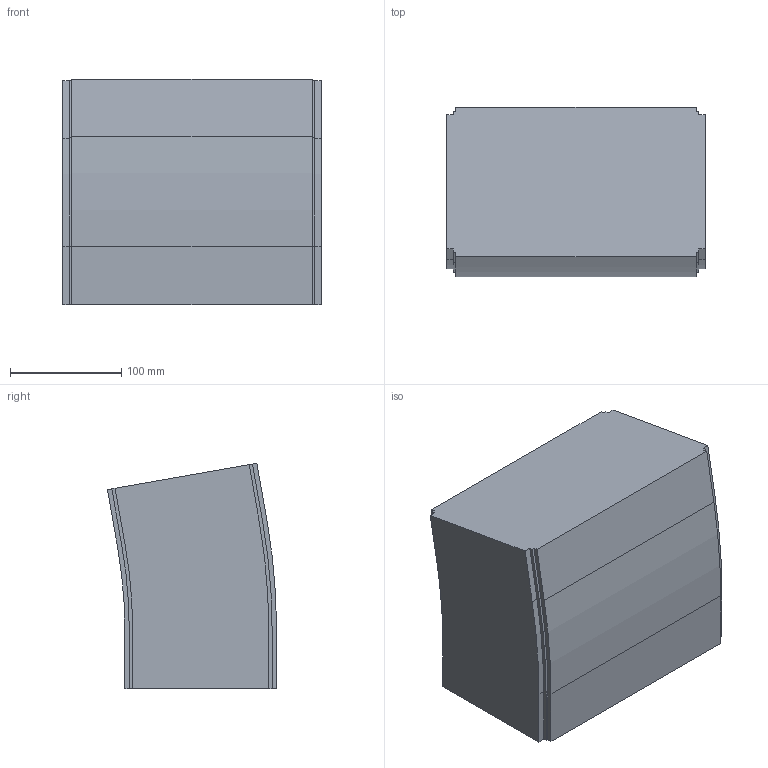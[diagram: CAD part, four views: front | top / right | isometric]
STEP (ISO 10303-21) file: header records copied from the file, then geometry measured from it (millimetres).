
FILE_DESCRIPTION (( 'STEP AP214' ), '1' );
FILE_NAME ('FS-MTC2-150-INOX verticaalbocht.230 10°.STEP', '2017-02-08T12:41:52', ( '' ), ( '' ), 'SwSTEP 2.0', 'SolidWorks 2016', '' );
FILE_SCHEMA (( 'AUTOMOTIVE_DESIGN' ));
Length unit declared in the file: millimetre
Products named in the file (1): FS-MTC2-150-INOX verticaalbocht.230 10°
Bounding box: 232.5 x 152.18 x 202.88 mm (x, y, z)
Volume: 6062440.4 mm3; surface area: 204955.5 mm2
Topology: 1 solids, 1 shells, 42 faces, 120 edges, 80 vertices
Faces by surface type: plane 32, cylinder 10
Entity records: 1398 total; most frequent: CARTESIAN_POINT 243, ORIENTED_EDGE 240, DIRECTION 226, EDGE_CURVE 120, LINE 100, VECTOR 100, VERTEX_POINT 80, AXIS2_PLACEMENT_3D 63
